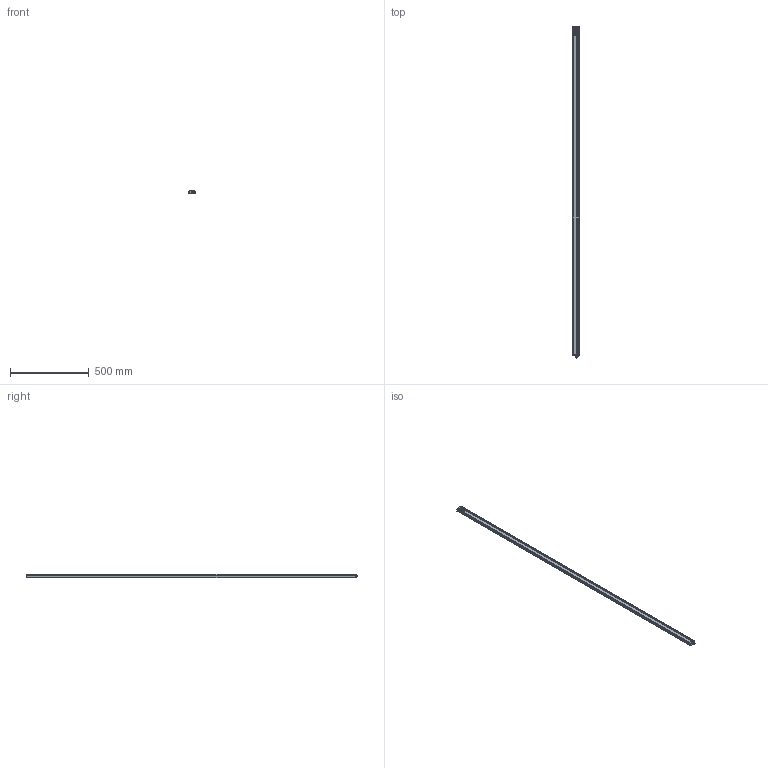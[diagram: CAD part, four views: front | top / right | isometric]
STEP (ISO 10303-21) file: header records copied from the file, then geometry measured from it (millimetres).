
FILE_DESCRIPTION(/* description */ (''),/* implementation_level */ '2;1');
FILE_NAME(/* name */ 'C:\Users\andre\SynologyDrive\Optoscan\Libreria Componenti\00 - Barriere\Barriera sorgente\Argo_2080_RX.stp',/* time_stamp */ '2021-04-22T12:26:38+02:00',/* author */ ('andre'),/* organization */ (''),/* preprocessor_version */ 'ST-DEVELOPER v18',/* originating_system */ 'Autodesk Inventor 2020',/* authorisation */ '');
FILE_SCHEMA (('AUTOMOTIVE_DESIGN { 1 0 10303 214 3 1 1 }'));
Length unit declared in the file: millimetre
Products named in the file (1): Argo_2080_RX
Bounding box: 40.5 x 2113.3 x 20.75 mm (x, y, z)
Volume: 416067.4 mm3; surface area: 552212.8 mm2
Topology: 1 solids, 1 shells, 692 faces, 1898 edges, 1217 vertices
Faces by surface type: plane 319, cylinder 195, bspline 94, torus 70, cone 8, sphere 6
Full cylindrical faces by diameter (mm): 1 x4, 2.459 x4, 2.5 x4, 3 x4, 3.5 x4, 5.5 x4, 8 x1, 10.5 x2, 11.75 x9, 15.7 x1, 17.5 x1
Entity records: 28165 total; most frequent: CARTESIAN_POINT 10195, ORIENTED_EDGE 3778, DIRECTION 3387, EDGE_CURVE 1889, VERTEX_POINT 1217, AXIS2_PLACEMENT_3D 1183, LINE 1021, VECTOR 1021
